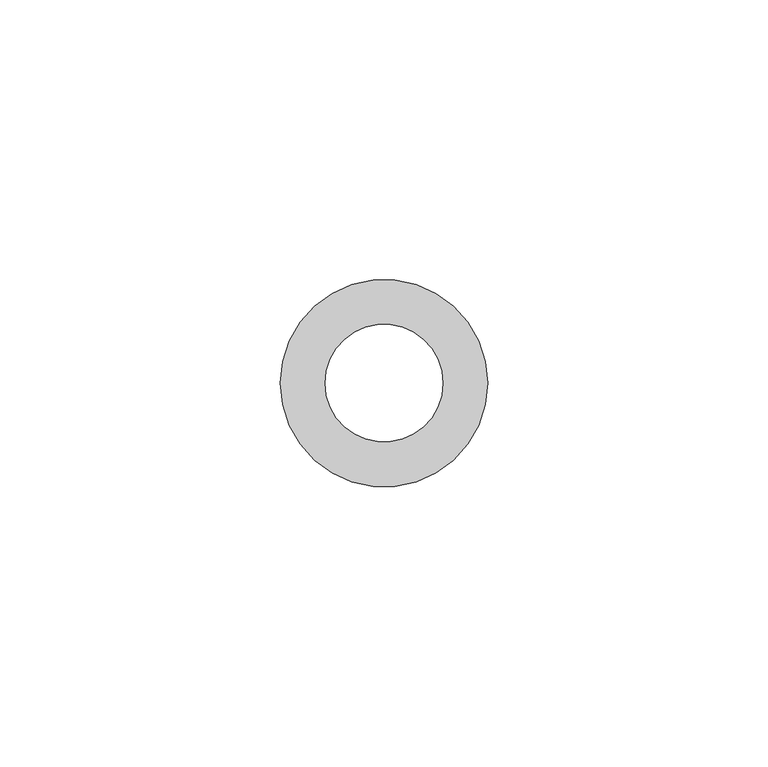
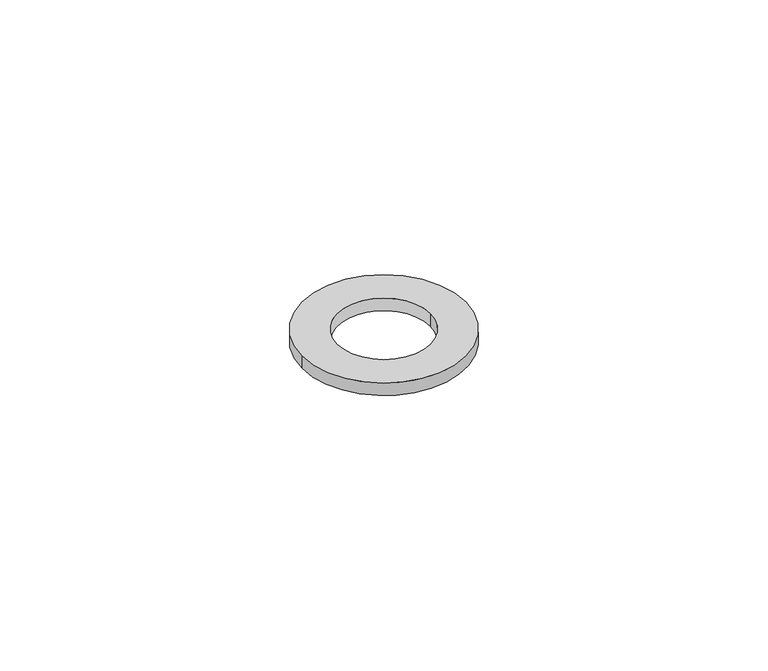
"""IFC4 building model written with IfcOpenShell, lengths in millimetres: fastener geometry, REC-T-M20 : T_M20."""

from ifc_helpers import new_model, si_unit, point, origin, origin_with_axes, origin_2d, place, context, project, spatial, circle_curve, trimmed, segment, composite_curve, outline, extrude, source, transform, mapped, element, save


def fastener_24ae0f83(model_context):
    return source(origin(), model_context, "Body", "SweptSolid", [
        extrude(outline(composite_curve([segment(trimmed(circle_curve(origin_2d(), 18.5), [point((-18.5, 0.0))], [point((18.5, 0.0))], False, "CARTESIAN"), True, "CONTINUOUS"), segment(trimmed(circle_curve(origin_2d(), 18.5), [point((18.5, 0.0))], [point((-18.5, 0.0))], False, "CARTESIAN"), True, "CONTINUOUS")], self_intersect=False), holes=[composite_curve([segment(trimmed(circle_curve(origin_2d(), 10.5), [point((-10.5, 0.0))], [point((10.5, 0.0))], True, "CARTESIAN"), True, "CONTINUOUS"), segment(trimmed(circle_curve(origin_2d(), 10.5), [point((10.5, 0.0))], [point((-10.5, 0.0))], True, "CARTESIAN"), True, "CONTINUOUS")], self_intersect=False)]), origin_with_axes(), (0.0, 0.0, 1.0), 3.0),
    ])


if __name__ == "__main__":
    model = new_model("IFC4")
    model_context = context("Model", 3, world=origin())
    ifc_project = project(units=[si_unit("LENGTHUNIT", "METRE", prefix="MILLI")], contexts=[model_context])
    site = spatial("IfcSite", under=ifc_project)
    building = spatial("IfcBuilding", under=site)
    placement = place(None, origin())
    fastener_shape = fastener_24ae0f83(model_context)
    element("IfcFastener", 1, ObjectType="REC-T-M20 : T_M20", at=placement, inside=building, context=model_context, shape_type="MappedRepresentation", body=[
        mapped(fastener_shape, transform((0.0, 0.0, 0.0), x_axis=(1.0, 0.0, 0.0), y_axis=(0.0, 1.0, 0.0), z_axis=(0.0, 0.0, 1.0))),
    ])
    save(model, "model.ifc")
